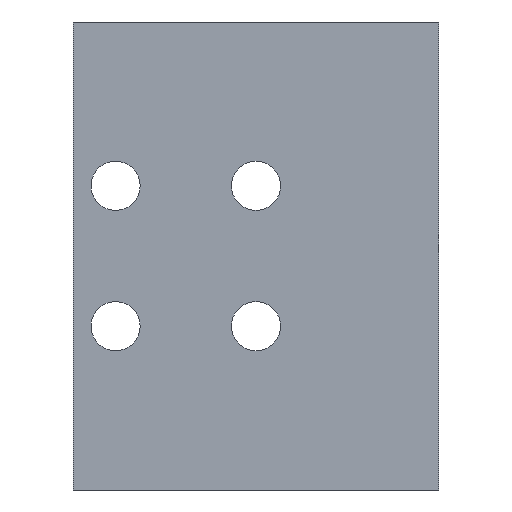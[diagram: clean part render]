
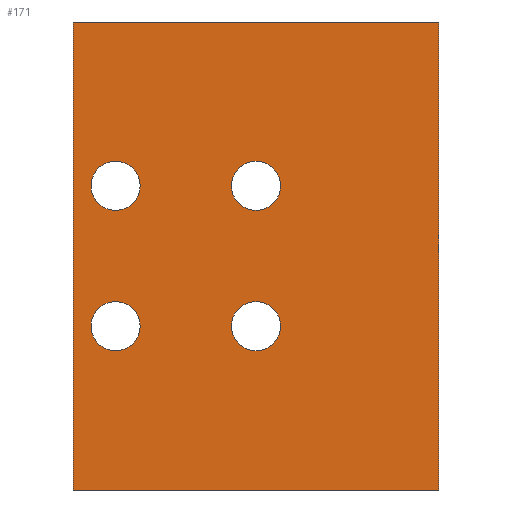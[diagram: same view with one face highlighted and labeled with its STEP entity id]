
A CAD part, front view. The second image highlights one B-rep face of the part: STEP entity #171.
In plain terms, the highlighted planar face has unit normal (0, -1, 0).
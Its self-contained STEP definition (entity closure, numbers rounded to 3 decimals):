
#99 = VERTEX_POINT( '', #265 );
#107 = EDGE_CURVE( '', #243, #145, #275, .T. );
#119 = VERTEX_POINT( '', #289 );
#129 = VERTEX_POINT( '', #300 );
#143 = VERTEX_POINT( '', #314 );
#145 = VERTEX_POINT( '', #316 );
#149 = VERTEX_POINT( '', #320 );
#155 = EDGE_CURVE( '', #207, #199, #327, .T. );
#163 = VERTEX_POINT( '', #340 );
#171 = ADVANCED_FACE( '', ( #349, #350, #351, #352, #353 ), #354, .T. );
#175 = EDGE_CURVE( '', #145, #243, #358, .T. );
#181 = EDGE_CURVE( '', #99, #143, #364, .T. );
#185 = EDGE_CURVE( '', #163, #119, #368, .T. );
#197 = EDGE_CURVE( '', #119, #163, #381, .T. );
#199 = VERTEX_POINT( '', #383 );
#201 = EDGE_CURVE( '', #203, #149, #385, .T. );
#203 = VERTEX_POINT( '', #387 );
#207 = VERTEX_POINT( '', #391 );
#209 = EDGE_CURVE( '', #199, #207, #393, .T. );
#211 = EDGE_CURVE( '', #129, #229, #395, .T. );
#221 = EDGE_CURVE( '', #99, #203, #406, .T. );
#229 = VERTEX_POINT( '', #415 );
#237 = EDGE_CURVE( '', #229, #129, #424, .T. );
#243 = VERTEX_POINT( '', #431 );
#247 = EDGE_CURVE( '', #143, #149, #435, .T. );
#265 = CARTESIAN_POINT( '', ( 39., 0., 50. ) );
#275 = CIRCLE( '', #456, 5.25 );
#289 = CARTESIAN_POINT( '', ( -5.25, 0., -15. ) );
#300 = CARTESIAN_POINT( '', ( -5.25, 0., 15. ) );
#314 = CARTESIAN_POINT( '', ( -39., 0., 50. ) );
#316 = CARTESIAN_POINT( '', ( -24.75, 0., 15. ) );
#320 = CARTESIAN_POINT( '', ( -39., 0., -50. ) );
#327 = CIRCLE( '', #524, 5.25 );
#340 = CARTESIAN_POINT( '', ( 5.25, 0., -15. ) );
#349 = FACE_BOUND( '', #547, .T. );
#350 = FACE_BOUND( '', #548, .T. );
#351 = FACE_BOUND( '', #549, .T. );
#352 = FACE_BOUND( '', #550, .T. );
#353 = FACE_OUTER_BOUND( '', #551, .T. );
#354 = PLANE( '', #552 );
#358 = CIRCLE( '', #558, 5.25 );
#364 = LINE( '', #566, #567 );
#368 = CIRCLE( '', #572, 5.25 );
#381 = CIRCLE( '', #592, 5.25 );
#383 = CARTESIAN_POINT( '', ( -24.75, 0., -15. ) );
#385 = LINE( '', #597, #598 );
#387 = CARTESIAN_POINT( '', ( 39., 0., -50. ) );
#391 = CARTESIAN_POINT( '', ( -35.25, 0., -15. ) );
#393 = CIRCLE( '', #609, 5.25 );
#395 = CIRCLE( '', #612, 5.25 );
#406 = LINE( '', #628, #629 );
#415 = CARTESIAN_POINT( '', ( 5.25, 0., 15. ) );
#424 = CIRCLE( '', #653, 5.25 );
#431 = CARTESIAN_POINT( '', ( -35.25, 0., 15. ) );
#435 = LINE( '', #667, #668 );
#456 = AXIS2_PLACEMENT_3D( '', #687, #688, #689 );
#524 = AXIS2_PLACEMENT_3D( '', #736, #737, #738 );
#547 = EDGE_LOOP( '', ( #767, #768 ) );
#548 = EDGE_LOOP( '', ( #769, #770 ) );
#549 = EDGE_LOOP( '', ( #771, #772 ) );
#550 = EDGE_LOOP( '', ( #773, #774 ) );
#551 = EDGE_LOOP( '', ( #775, #776, #777, #778 ) );
#552 = AXIS2_PLACEMENT_3D( '', #779, #780, #781 );
#558 = AXIS2_PLACEMENT_3D( '', #785, #786, #787 );
#566 = CARTESIAN_POINT( '', ( 39., 0., 50. ) );
#567 = VECTOR( '', #791, 1. );
#572 = AXIS2_PLACEMENT_3D( '', #792, #793, #794 );
#592 = AXIS2_PLACEMENT_3D( '', #806, #807, #808 );
#597 = CARTESIAN_POINT( '', ( 39., 0., -50. ) );
#598 = VECTOR( '', #809, 1. );
#609 = AXIS2_PLACEMENT_3D( '', #811, #812, #813 );
#612 = AXIS2_PLACEMENT_3D( '', #814, #815, #816 );
#628 = CARTESIAN_POINT( '', ( 39., 0., 50. ) );
#629 = VECTOR( '', #827, 1. );
#653 = AXIS2_PLACEMENT_3D( '', #849, #850, #851 );
#667 = CARTESIAN_POINT( '', ( -39., 0., 50. ) );
#668 = VECTOR( '', #866, 1. );
#687 = CARTESIAN_POINT( '', ( -30., 0., 15. ) );
#688 = DIRECTION( '', ( 0., 1., 0. ) );
#689 = DIRECTION( '', ( -1., 0., 0. ) );
#736 = CARTESIAN_POINT( '', ( -30., 0., -15. ) );
#737 = DIRECTION( '', ( 0., 1., 0. ) );
#738 = DIRECTION( '', ( -1., 0., 0. ) );
#767 = ORIENTED_EDGE( '', *, *, #237, .T. );
#768 = ORIENTED_EDGE( '', *, *, #211, .T. );
#769 = ORIENTED_EDGE( '', *, *, #175, .T. );
#770 = ORIENTED_EDGE( '', *, *, #107, .T. );
#771 = ORIENTED_EDGE( '', *, *, #185, .T. );
#772 = ORIENTED_EDGE( '', *, *, #197, .T. );
#773 = ORIENTED_EDGE( '', *, *, #209, .T. );
#774 = ORIENTED_EDGE( '', *, *, #155, .T. );
#775 = ORIENTED_EDGE( '', *, *, #247, .T. );
#776 = ORIENTED_EDGE( '', *, *, #201, .F. );
#777 = ORIENTED_EDGE( '', *, *, #221, .F. );
#778 = ORIENTED_EDGE( '', *, *, #181, .T. );
#779 = CARTESIAN_POINT( '', ( 39., 0., 50. ) );
#780 = DIRECTION( '', ( 0., -1., 0. ) );
#781 = DIRECTION( '', ( 0., 0., 1. ) );
#785 = CARTESIAN_POINT( '', ( -30., 0., 15. ) );
#786 = DIRECTION( '', ( 0., 1., 0. ) );
#787 = DIRECTION( '', ( -1., 0., 0. ) );
#791 = DIRECTION( '', ( -1., 0., 0. ) );
#792 = CARTESIAN_POINT( '', ( 0., 0., -15. ) );
#793 = DIRECTION( '', ( 0., 1., 0. ) );
#794 = DIRECTION( '', ( -1., 0., 0. ) );
#806 = CARTESIAN_POINT( '', ( 0., 0., -15. ) );
#807 = DIRECTION( '', ( 0., 1., 0. ) );
#808 = DIRECTION( '', ( -1., 0., 0. ) );
#809 = DIRECTION( '', ( -1., 0., 0. ) );
#811 = CARTESIAN_POINT( '', ( -30., 0., -15. ) );
#812 = DIRECTION( '', ( 0., 1., 0. ) );
#813 = DIRECTION( '', ( -1., 0., 0. ) );
#814 = CARTESIAN_POINT( '', ( 0., 0., 15. ) );
#815 = DIRECTION( '', ( 0., 1., 0. ) );
#816 = DIRECTION( '', ( -1., 0., 0. ) );
#827 = DIRECTION( '', ( 0., 0., -1. ) );
#849 = CARTESIAN_POINT( '', ( 0., 0., 15. ) );
#850 = DIRECTION( '', ( 0., 1., 0. ) );
#851 = DIRECTION( '', ( -1., 0., 0. ) );
#866 = DIRECTION( '', ( 0., 0., -1. ) );
